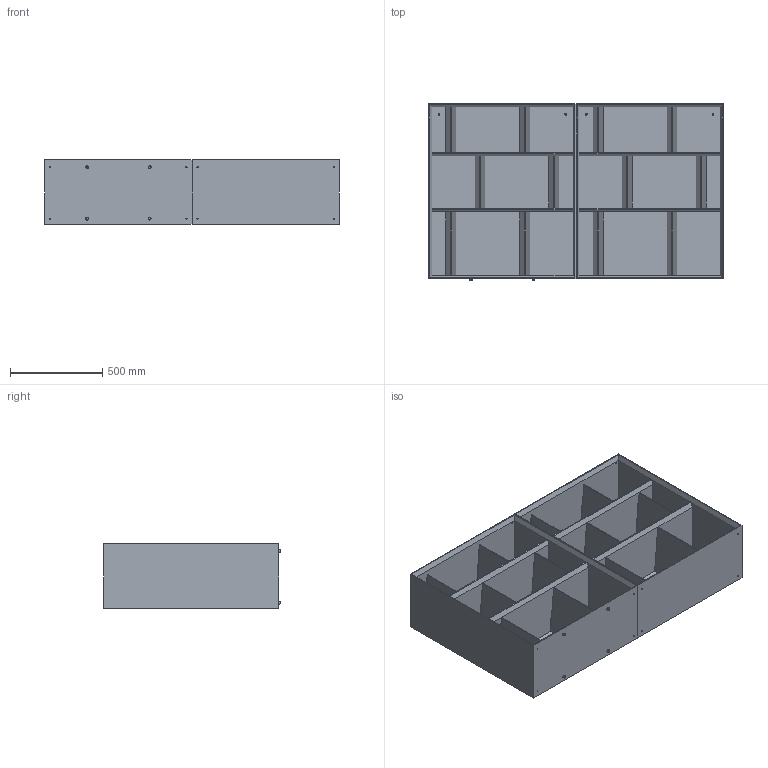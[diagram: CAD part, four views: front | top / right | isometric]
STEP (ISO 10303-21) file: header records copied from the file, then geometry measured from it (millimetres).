
FILE_DESCRIPTION (( 'STEP AP203' ), '1' );
FILE_NAME ('BL11S_Bendy Ax2_160x35x95h.STEP', '2024-08-06T08:28:52', ( '' ), ( '' ), 'SwSTEP 2.0', 'SolidWorks 2022', '' );
FILE_SCHEMA (( 'CONFIG_CONTROL_DESIGN' ));
Length unit declared in the file: millimetre
Products named in the file (7): BEA00000-00-ASSIEME bendy 80x95_DEFAULT; BEx00000-01-BENDY Struttura tutte le dimensioni_bendy A 80x95cm<A macchina>; piedino M5; BED000001-00-TRIANGOLO DIVISORIO_H.256; BED000001-00-TRIANGOLO DIVISORIO_H.292; BL11S_Bendy Ax2_160x35x95h; BED000001-00-TRIANGOLO DIVISORIO_H.356
Assembly tree (13 placements, depth 3):
  BL11S_Bendy Ax2_160x35x95h
    BEA00000-00-ASSIEME bendy 80x95_DEFAULT  x2
      BEx00000-01-BENDY Struttura tutte le dimensioni_bendy A 80x95cm<A macchina>
      BED000001-00-TRIANGOLO DIVISORIO_H.356
      BED000001-00-TRIANGOLO DIVISORIO_H.292
      BED000001-00-TRIANGOLO DIVISORIO_H.256
    piedino M5  x4
Bounding box: 1600 x 957 x 350 mm (x, y, z)
Volume: 74420365 mm3; surface area: 14191030.6 mm2
Topology: 34 solids, 34 shells, 744 faces, 1764 edges, 1084 vertices
Faces by surface type: plane 456, cylinder 232, cone 40, torus 16
Entity records: 9753 total; most frequent: DIRECTION 1584, CARTESIAN_POINT 1511, ORIENTED_EDGE 1460, EDGE_CURVE 730, AXIS2_PLACEMENT_3D 531, VECTOR 522, LINE 522, VERTEX_POINT 458
